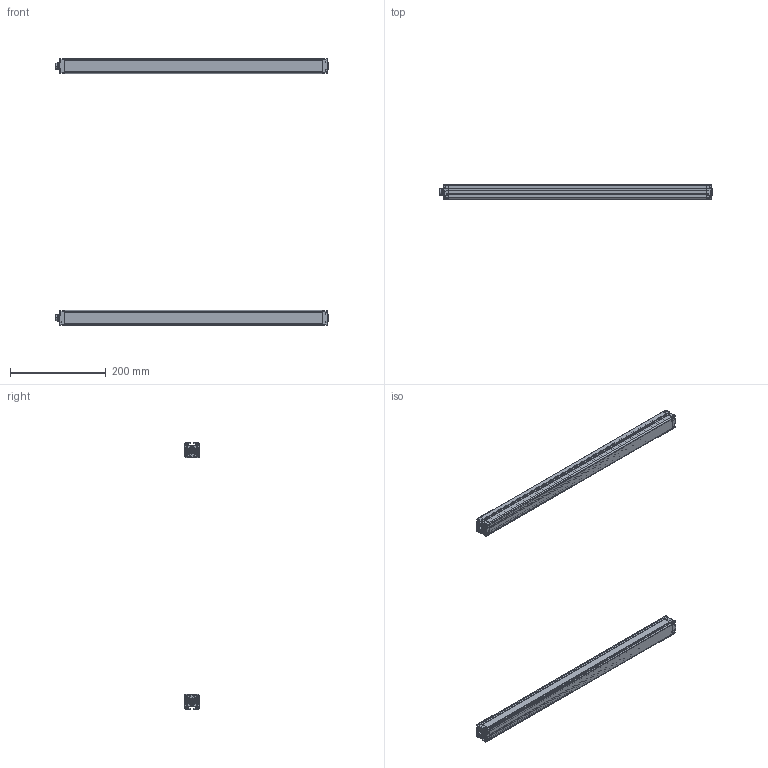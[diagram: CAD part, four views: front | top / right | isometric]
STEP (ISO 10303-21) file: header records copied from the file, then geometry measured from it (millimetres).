
FILE_DESCRIPTION((''),'2;1');
FILE_NAME('THW_ASM','2019-05-20T',('Administrator'),(''),'PRO/ENGINEER BY PARAMETRIC TECHNOLOGY CORPORATION, 2002180','PRO/ENGINEER BY PARAMETRIC TECHNOLOGY CORPORATION, 2002180','');
FILE_SCHEMA(('CONFIG_CONTROL_DESIGN'));
Length unit declared in the file: millimetre
Products named in the file (10): 11; 101; 102; 13; 12; 14; 16; ASM0002_ASM; 0000_ASM; THW_ASM
Assembly tree (10 placements, depth 4):
  THW_ASM
    0000_ASM  x2
      11
      101
      102
      13
      12
      ASM0002_ASM
        14
        16
Bounding box: 572 x 30.3 x 558.6 mm (x, y, z)
Volume: 344308.2 mm3; surface area: 385778.5 mm2
Topology: 10 solids, 14 shells, 1080 faces, 3010 edges, 1986 vertices
Faces by surface type: plane 764, cylinder 288, cone 28
Entity records: 17771 total; most frequent: CARTESIAN_POINT 3380, ORIENTED_EDGE 3006, DIRECTION 2885, EDGE_CURVE 1505, VECTOR 1177, LINE 1177, VERTEX_POINT 993, AXIS2_PLACEMENT_3D 854
